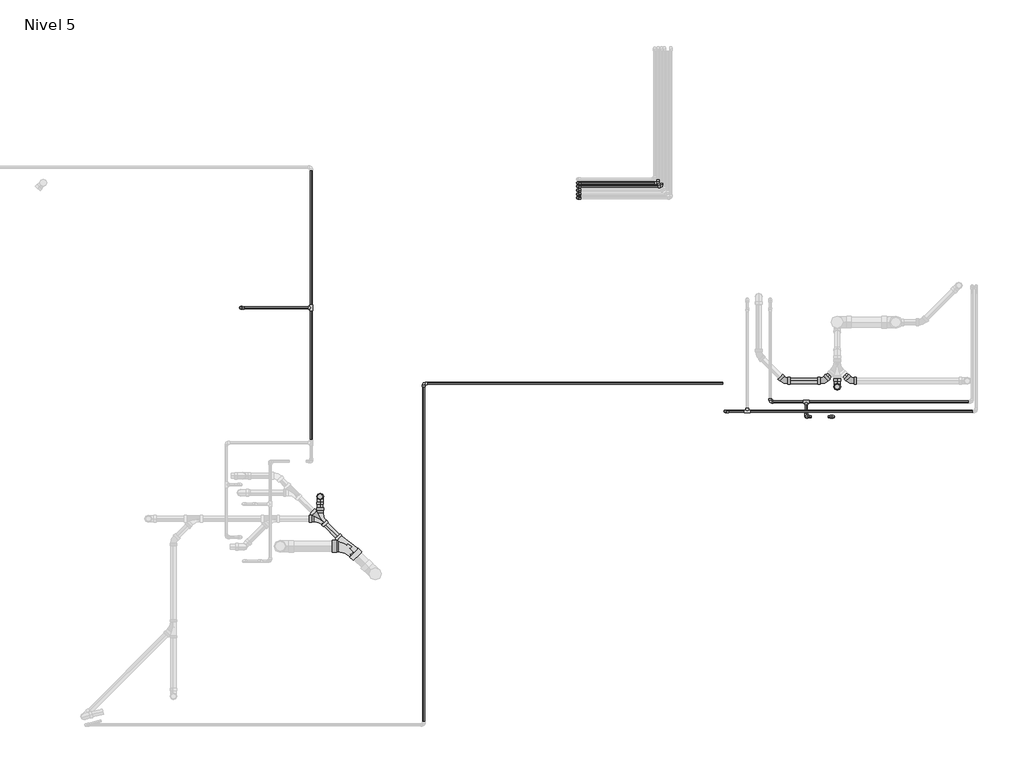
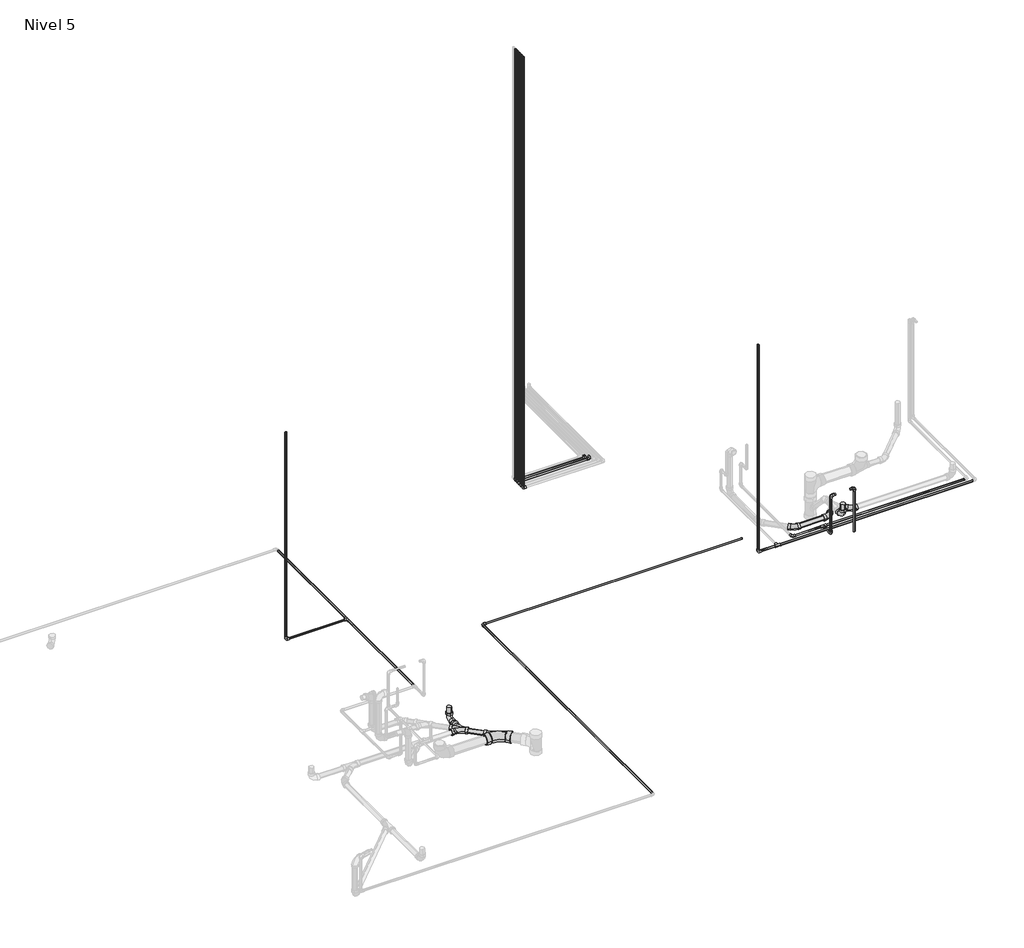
# One storey, part 3 of 6: 31 pipe segments, 24 pipe fittings.
"""IFC4 building model written with IfcOpenShell, lengths in millimetres."""

from ifc_helpers import new_model, si_unit, point, frame, frame_2d, origin, place, context, project, spatial, circle_curve, trimmed, segment, composite_curve, outline, extrude, transform, mapped, element, save
from components import pipe_fitting_ab418b84, pipe_fitting_e120c99a, pipe_fitting_a666eca6, m_codo_pvc_serie_40_9ad74631, m_codo_pvc_serie_40_dwv1_5c0ec739, m_codo_pvc_serie_40_dwv1_6f1a2495

model = new_model("IFC4")

# Units and contexts
model_context = context("Model", 3, world=origin())
ifc_project = project(units=[si_unit("LENGTHUNIT", "METRE", prefix="MILLI")], contexts=[model_context])

# Site, building, storey
site = spatial("IfcSite", under=ifc_project)
building = spatial("IfcBuilding", under=site)
storey = spatial("IfcBuildingStorey", under=building, Name="Nivel 5", Elevation=10750.0)

# Pipe fittings
placement = place(None, origin())
pipe_fitting_shape = pipe_fitting_ab418b84(model_context)
element("IfcPipeFitting", 1, ObjectType="M_Te - PVC - Serie 40 : Estándar", at=placement, inside=storey, context=model_context, shape_type="MappedRepresentation", body=[
    mapped(pipe_fitting_shape, transform((1981.5388199, 6705.6716188, 10700.0), x_axis=(0.0, 1.0, 0.0), y_axis=(1.0, 0.0, 0.0), z_axis=(0.0, 0.0, -1.0))),
])
element("IfcPipeFitting", 2, ObjectType="M_Te - PVC - Serie 40 : Estándar", at=placement, inside=storey, context=model_context, shape_type="MappedRepresentation", body=[
    mapped(pipe_fitting_shape, transform((6501.6215833, 5631.6711332, 10700.0), x_axis=(-1.0, 0.0, 0.0), y_axis=(0.0, -1.0, 0.0), z_axis=(0.0, 0.0, 1.0))),
])
element("IfcPipeFitting", 3, ObjectType="M_Te - PVC - Serie 40 : Estándar", at=placement, inside=storey, context=model_context, shape_type="MappedRepresentation", body=[
    mapped(pipe_fitting_shape, transform((7112.1407847, 5731.9268515, 10670.0), x_axis=(1.0, 0.0, 0.0), y_axis=(0.0, 1.0, 0.0), z_axis=(0.0, 0.0, 1.0))),
])
pipe_fitting_2_shape = pipe_fitting_e120c99a(model_context)
element("IfcPipeFitting", 4, ObjectType="M_Sanitario con te de reducción - PVC - Serie 40 - DWV : Estándar", at=placement, inside=storey, context=model_context, shape_type="MappedRepresentation", body=[
    mapped(pipe_fitting_2_shape, transform((2359.2960274, 4233.3960274, 10600.0), x_axis=(-0.7071067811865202, 0.7071067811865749, 0.0), y_axis=(0.7071067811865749, 0.7071067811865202, 0.0), z_axis=(0.0, 0.0, -1.0))),
])
pipe_fitting_3_shape = pipe_fitting_a666eca6(model_context)
element("IfcPipeFitting", 5, ObjectType="M_Sanitario con te doble con reducción - PVC - Serie 40 - DWV : Estándar", at=placement, inside=storey, context=model_context, shape_type="MappedRepresentation", body=[
    mapped(pipe_fitting_3_shape, transform((2073.112922, 4519.5791327, 10600.0), x_axis=(-0.7071067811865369, 0.7071067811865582, 0.0), y_axis=(-0.7071067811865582, -0.7071067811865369, 0.0), z_axis=(0.0, 0.0, 1.0))),
])
m_codo_pvc_serie_40_shape = m_codo_pvc_serie_40_9ad74631(model_context)
element("IfcPipeFitting", 6, ObjectType="M_Codo - PVC - Serie 40 : Estándar", at=placement, inside=storey, context=model_context, shape_type="MappedRepresentation", body=[
    mapped(m_codo_pvc_serie_40_shape, transform((3147.8789247, 5921.9268515, 10700.0), x_axis=(-1.0, 0.0, 0.0), y_axis=(0.0, -1.0, 0.0), z_axis=(0.0, 0.0, 1.0))),
])
element("IfcPipeFitting", 7, ObjectType="M_Codo - PVC - Serie 40 : Estándar", at=placement, inside=storey, context=model_context, shape_type="MappedRepresentation", body=[
    mapped(m_codo_pvc_serie_40_shape, transform((6738.3784167, 5731.9268515, 10670.0), x_axis=(0.0, -1.0, 0.0), y_axis=(1.0, 0.0, 0.0), z_axis=(0.0, 0.0, 1.0))),
])
element("IfcPipeFitting", 8, ObjectType="M_Codo - PVC - Serie 40 : Estándar", at=placement, inside=storey, context=model_context, shape_type="MappedRepresentation", body=[
    mapped(m_codo_pvc_serie_40_shape, transform((7112.1407847, 5576.9268515, 10670.0), x_axis=(0.0, -1.0, 0.0), y_axis=(0.0, 0.0, 1.0), z_axis=(-1.0, 0.0, 0.0))),
])
element("IfcPipeFitting", 9, ObjectType="M_Codo - PVC - Serie 40 : Estándar", at=placement, inside=storey, context=model_context, shape_type="MappedRepresentation", body=[
    mapped(m_codo_pvc_serie_40_shape, transform((7112.1407847, 5576.9268515, 11150.0), x_axis=(0.0, 0.0, 1.0), y_axis=(1.0, 0.0, 0.0), z_axis=(0.0, 1.0, 0.0))),
])
element("IfcPipeFitting", 10, ObjectType="M_Codo - PVC - Serie 40 : Estándar", at=placement, inside=storey, context=model_context, shape_type="MappedRepresentation", body=[
    mapped(m_codo_pvc_serie_40_shape, transform((7392.1407847, 5576.9268515, 11150.0), x_axis=(1.0, 0.0, 0.0), y_axis=(0.0, 0.0, -1.0), z_axis=(0.0, 1.0, 0.0))),
])
element("IfcPipeFitting", 11, ObjectType="M_Codo - PVC - Serie 40 : Estándar", at=placement, inside=storey, context=model_context, shape_type="MappedRepresentation", body=[
    mapped(m_codo_pvc_serie_40_shape, transform((5577.0674476, 7999.5181394, 10700.0), x_axis=(1.0, 0.0, 0.0), y_axis=(0.0, 1.0, 0.0), z_axis=(0.0, 0.0, 1.0))),
])
element("IfcPipeFitting", 12, ObjectType="M_Codo - PVC - Serie 40 : Estándar", at=placement, inside=storey, context=model_context, shape_type="MappedRepresentation", body=[
    mapped(m_codo_pvc_serie_40_shape, transform((5611.6630441, 7964.5181394, 10700.0), x_axis=(1.0, 0.0, 0.0), y_axis=(0.0, 1.0, 0.0), z_axis=(0.0, 0.0, 1.0))),
])
element("IfcPipeFitting", 13, ObjectType="M_Codo - PVC - Serie 40 : Estándar", at=placement, inside=storey, context=model_context, shape_type="MappedRepresentation", body=[
    mapped(m_codo_pvc_serie_40_shape, transform((4741.6630441, 7884.5181394, 10700.0), x_axis=(-1.0, 0.0, 0.0), y_axis=(0.0, 0.0, 1.0), z_axis=(0.0, 1.0, 0.0))),
])
element("IfcPipeFitting", 14, ObjectType="M_Codo - PVC - Serie 40 : Estándar", at=placement, inside=storey, context=model_context, shape_type="MappedRepresentation", body=[
    mapped(m_codo_pvc_serie_40_shape, transform((4741.6630441, 7844.5181394, 10700.0), x_axis=(-1.0, 0.0, 0.0), y_axis=(0.0, 0.0, 1.0), z_axis=(0.0, 1.0, 0.0))),
])
element("IfcPipeFitting", 15, ObjectType="M_Codo - PVC - Serie 40 : Estándar", at=placement, inside=storey, context=model_context, shape_type="MappedRepresentation", body=[
    mapped(m_codo_pvc_serie_40_shape, transform((4741.6630441, 7999.5181394, 10700.0), x_axis=(-1.0, 0.0, 0.0), y_axis=(0.0, 0.0, 1.0), z_axis=(0.0, 1.0, 0.0))),
])
element("IfcPipeFitting", 16, ObjectType="M_Codo - PVC - Serie 40 : Estándar", at=placement, inside=storey, context=model_context, shape_type="MappedRepresentation", body=[
    mapped(m_codo_pvc_serie_40_shape, transform((4741.6630441, 7964.5181394, 10700.0), x_axis=(-1.0, 0.0, 0.0), y_axis=(0.0, 0.0, 1.0), z_axis=(0.0, 1.0, 0.0))),
])
element("IfcPipeFitting", 17, ObjectType="M_Codo - PVC - Serie 40 : Estándar", at=placement, inside=storey, context=model_context, shape_type="MappedRepresentation", body=[
    mapped(m_codo_pvc_serie_40_shape, transform((4741.6630441, 7924.5181394, 10700.0), x_axis=(-1.0, 0.0, 0.0), y_axis=(0.0, 0.0, 1.0), z_axis=(0.0, 1.0, 0.0))),
])
element("IfcPipeFitting", 18, ObjectType="M_Codo - PVC - Serie 40 : Estándar", at=placement, inside=storey, context=model_context, shape_type="MappedRepresentation", body=[
    mapped(m_codo_pvc_serie_40_shape, transform((1251.5388199, 6705.6716188, 10700.0), x_axis=(-1.0, 0.0, 0.0), y_axis=(0.0, 1.577925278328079e-05, 0.9999999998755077), z_axis=(0.0, 0.9999999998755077, -1.577925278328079e-05))),
])
element("IfcPipeFitting", 19, ObjectType="M_Codo - PVC - Serie 40 : Estándar", at=placement, inside=storey, context=model_context, shape_type="MappedRepresentation", body=[
    mapped(m_codo_pvc_serie_40_shape, transform((6273.0126322, 5631.6711332, 10700.0), x_axis=(-1.0, 0.0, 0.0), y_axis=(0.0, -0.0002933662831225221, 0.9999999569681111), z_axis=(0.0, 0.9999999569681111, 0.0002933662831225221))),
])
m_codo_pvc_serie_40_dwv1_shape = m_codo_pvc_serie_40_dwv1_5c0ec739(model_context)
element("IfcPipeFitting", 20, ObjectType="M_Codo - PVC - Serie 40 - DWV1 : Estándar 2", at=placement, inside=storey, context=model_context, shape_type="MappedRepresentation", body=[
    mapped(m_codo_pvc_serie_40_dwv1_shape, transform((2073.112922, 4749.5791327, 10600.0), x_axis=(0.0, 1.0, 0.0), y_axis=(0.0, 0.0, 1.0), z_axis=(1.0, 0.0, 0.0))),
])
element("IfcPipeFitting", 21, ObjectType="M_Codo - PVC - Serie 40 - DWV1 : Estándar 2", at=placement, inside=storey, context=model_context, shape_type="MappedRepresentation", body=[
    mapped(m_codo_pvc_serie_40_dwv1_shape, transform((7432.6816991, 5886.7854242, 10599.9998671), x_axis=(0.0, -1.0, 0.0), y_axis=(0.0, 0.0, 1.0), z_axis=(-1.0, 0.0, 0.0))),
])
m_codo_pvc_serie_40_dwv1_2_shape = m_codo_pvc_serie_40_dwv1_6f1a2495(model_context)
element("IfcPipeFitting", 22, ObjectType="M_Codo - PVC - Serie 40 - DWV1 : Estándar 2", at=placement, inside=storey, context=model_context, shape_type="MappedRepresentation", body=[
    mapped(m_codo_pvc_serie_40_dwv1_2_shape, transform((7292.6689252, 5947.7956387, 10600.0), x_axis=(1.0, 0.0, 0.0), y_axis=(0.0, 1.0, 0.0), z_axis=(0.0, 0.0, 1.0))),
])
element("IfcPipeFitting", 23, ObjectType="M_Codo - PVC - Serie 40 - DWV1 : Estándar 2", at=placement, inside=storey, context=model_context, shape_type="MappedRepresentation", body=[
    mapped(m_codo_pvc_serie_40_dwv1_2_shape, transform((6887.2043613, 5947.7956387, 10600.0), x_axis=(0.7071067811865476, -0.7071067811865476, 0.0), y_axis=(0.7071067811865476, 0.7071067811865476, 0.0), z_axis=(0.0, 0.0, 1.0))),
])
element("IfcPipeFitting", 24, ObjectType="M_Codo - PVC - Serie 40 - DWV1 : Estándar 2", at=placement, inside=storey, context=model_context, shape_type="MappedRepresentation", body=[
    mapped(m_codo_pvc_serie_40_dwv1_2_shape, transform((7572.4670846, 5947.7956387, 10600.0), x_axis=(0.7071067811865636, -0.7071067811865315, 0.0), y_axis=(0.7071067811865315, 0.7071067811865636, 0.0), z_axis=(0.0, 0.0, 1.0))),
])

# Pipe segments
element("IfcPipeSegment", 25, ObjectType="Tuberia PVC Agua Fria", at=placement, inside=storey, context=model_context, shape_type="SweptSolid", body=[
    extrude(outline(composite_curve([segment(trimmed(circle_curve(frame_2d((6705.6716188, 10700.0)), 10.31875), [point((6715.9903688, 10700.0))], [point((6705.6716188, 10689.68125))], False, "CARTESIAN"), True, "CONTINUOUS"), segment(trimmed(circle_curve(frame_2d((6705.6716188, 10700.0)), 10.31875), [point((6705.6716188, 10689.68125))], [point((6695.3528688, 10700.0))], False, "CARTESIAN"), True, "CONTINUOUS"), segment(trimmed(circle_curve(frame_2d((6705.6716188, 10700.0)), 10.31875), [point((6695.3528688, 10700.0))], [point((6705.6716188, 10710.31875))], False, "CARTESIAN"), True, "CONTINUOUS"), segment(trimmed(circle_curve(frame_2d((6705.6716188, 10700.0)), 10.31875), [point((6705.6716188, 10710.31875))], [point((6715.9903688, 10700.0))], False, "CARTESIAN"), True, "CONTINUOUS")], self_intersect=False)), frame((1284.9398199, 0.0, 0.0), z_axis=(1.0, 0.0, 0.0), x_axis=(0.0, 1.0, 0.0)), (0.0, 0.0, 1.0), 666.1388438),
])
element("IfcPipeSegment", 26, ObjectType="Tuberia PVC Agua Fria", at=placement, inside=storey, context=model_context, shape_type="SweptSolid", body=[
    extrude(outline(composite_curve([segment(trimmed(circle_curve(frame_2d((10700.0, 1981.5388199)), 10.31875), [point((10700.0, 1971.2200699))], [point((10689.68125, 1981.5388199))], False, "CARTESIAN"), True, "CONTINUOUS"), segment(trimmed(circle_curve(frame_2d((10700.0, 1981.5388199)), 10.31875), [point((10689.68125, 1981.5388199))], [point((10700.0, 1991.8575699))], False, "CARTESIAN"), True, "CONTINUOUS"), segment(trimmed(circle_curve(frame_2d((10700.0, 1981.5388199)), 10.31875), [point((10700.0, 1991.8575699))], [point((10710.31875, 1981.5388199))], False, "CARTESIAN"), True, "CONTINUOUS"), segment(trimmed(circle_curve(frame_2d((10700.0, 1981.5388199)), 10.31875), [point((10710.31875, 1981.5388199))], [point((10700.0, 1971.2200699))], False, "CARTESIAN"), True, "CONTINUOUS")], self_intersect=False)), frame((0.0, 6736.1317751, 0.0), z_axis=(0.0, 1.0, 0.0), x_axis=(0.0, 0.0, 1.0)), (0.0, 0.0, 1.0), 1393.6388437),
])
element("IfcPipeSegment", 27, ObjectType="Tuberia PVC Agua Fria", at=placement, inside=storey, context=model_context, shape_type="SweptSolid", body=[
    extrude(outline(composite_curve([segment(trimmed(circle_curve(frame_2d((10700.0, 1981.5388199)), 10.31875), [point((10700.0, 1971.2200699))], [point((10689.68125, 1981.5388199))], False, "CARTESIAN"), True, "CONTINUOUS"), segment(trimmed(circle_curve(frame_2d((10700.0, 1981.5388199)), 10.31875), [point((10689.68125, 1981.5388199))], [point((10700.0, 1991.8575699))], False, "CARTESIAN"), True, "CONTINUOUS"), segment(trimmed(circle_curve(frame_2d((10700.0, 1981.5388199)), 10.31875), [point((10700.0, 1991.8575699))], [point((10710.31875, 1981.5388199))], False, "CARTESIAN"), True, "CONTINUOUS"), segment(trimmed(circle_curve(frame_2d((10700.0, 1981.5388199)), 10.31875), [point((10710.31875, 1981.5388199))], [point((10700.0, 1971.2200699))], False, "CARTESIAN"), True, "CONTINUOUS")], self_intersect=False)), frame((0.0, 5337.8769601, 0.0), z_axis=(0.0, 1.0, 0.0), x_axis=(0.0, 0.0, 1.0)), (0.0, 0.0, 1.0), 1337.3345024),
])
element("IfcPipeSegment", 28, ObjectType="Tuberia PVC Agua Fria", at=placement, inside=storey, context=model_context, shape_type="SweptSolid", body=[
    extrude(outline(composite_curve([segment(trimmed(circle_curve(frame_2d((10700.0, 3147.8789247)), 10.31875), [point((10700.0, 3158.1976747))], [point((10710.31875, 3147.8789247))], False, "CARTESIAN"), True, "CONTINUOUS"), segment(trimmed(circle_curve(frame_2d((10700.0, 3147.8789247)), 10.31875), [point((10710.31875, 3147.8789247))], [point((10700.0, 3137.5601747))], False, "CARTESIAN"), True, "CONTINUOUS"), segment(trimmed(circle_curve(frame_2d((10700.0, 3147.8789247)), 10.31875), [point((10700.0, 3137.5601747))], [point((10689.68125, 3147.8789247))], False, "CARTESIAN"), True, "CONTINUOUS"), segment(trimmed(circle_curve(frame_2d((10700.0, 3147.8789247)), 10.31875), [point((10689.68125, 3147.8789247))], [point((10700.0, 3158.1976747))], False, "CARTESIAN"), True, "CONTINUOUS")], self_intersect=False)), frame((0.0, 2415.3278515, 0.0), z_axis=(0.0, 1.0, 0.0), x_axis=(0.0, 0.0, 1.0)), (0.0, 0.0, 1.0), 3473.198),
])
element("IfcPipeSegment", 29, ObjectType="Tuberia PVC Agua Fria", at=placement, inside=storey, context=model_context, shape_type="SweptSolid", body=[
    extrude(outline(composite_curve([segment(trimmed(circle_curve(frame_2d((5921.9268515, 10700.0)), 10.31875), [point((5911.6081015, 10700.0))], [point((5921.9268515, 10710.31875))], False, "CARTESIAN"), True, "CONTINUOUS"), segment(trimmed(circle_curve(frame_2d((5921.9268515, 10700.0)), 10.31875), [point((5921.9268515, 10710.31875))], [point((5932.2456015, 10700.0))], False, "CARTESIAN"), True, "CONTINUOUS"), segment(trimmed(circle_curve(frame_2d((5921.9268515, 10700.0)), 10.31875), [point((5932.2456015, 10700.0))], [point((5921.9268515, 10689.68125))], False, "CARTESIAN"), True, "CONTINUOUS"), segment(trimmed(circle_curve(frame_2d((5921.9268515, 10700.0)), 10.31875), [point((5921.9268515, 10689.68125))], [point((5911.6081015, 10700.0))], False, "CARTESIAN"), True, "CONTINUOUS")], self_intersect=False)), frame((3181.2799247, 0.0, 0.0), z_axis=(1.0, 0.0, 0.0), x_axis=(0.0, 1.0, 0.0)), (0.0, 0.0, 1.0), 3066.599),
])
element("IfcPipeSegment", 30, ObjectType="Tuberia PVC Agua Fria", at=placement, inside=storey, context=model_context, shape_type="SweptSolid", body=[
    extrude(outline(composite_curve([segment(trimmed(circle_curve(frame_2d((5631.6711332, 10700.0)), 10.31875), [point((5621.3523832, 10700.0))], [point((5631.6711332, 10710.31875))], False, "CARTESIAN"), True, "CONTINUOUS"), segment(trimmed(circle_curve(frame_2d((5631.6711332, 10700.0)), 10.31875), [point((5631.6711332, 10710.31875))], [point((5641.9898832, 10700.0))], False, "CARTESIAN"), True, "CONTINUOUS"), segment(trimmed(circle_curve(frame_2d((5631.6711332, 10700.0)), 10.31875), [point((5641.9898832, 10700.0))], [point((5631.6711332, 10689.68125))], False, "CARTESIAN"), True, "CONTINUOUS"), segment(trimmed(circle_curve(frame_2d((5631.6711332, 10700.0)), 10.31875), [point((5631.6711332, 10689.68125))], [point((5621.3523832, 10700.0))], False, "CARTESIAN"), True, "CONTINUOUS")], self_intersect=False)), frame((6532.0817396, 0.0, 0.0), z_axis=(1.0, 0.0, 0.0), x_axis=(0.0, 1.0, 0.0)), (0.0, 0.0, 1.0), 2307.5298926),
])
element("IfcPipeSegment", 31, ObjectType="Tuberia PVC Agua Fria", at=placement, inside=storey, context=model_context, shape_type="SweptSolid", body=[
    extrude(outline(composite_curve([segment(trimmed(circle_curve(frame_2d((5631.6711332, 10700.0)), 10.31875), [point((5621.3523832, 10700.0))], [point((5631.6711332, 10710.31875))], False, "CARTESIAN"), True, "CONTINUOUS"), segment(trimmed(circle_curve(frame_2d((5631.6711332, 10700.0)), 10.31875), [point((5631.6711332, 10710.31875))], [point((5641.9898832, 10700.0))], False, "CARTESIAN"), True, "CONTINUOUS"), segment(trimmed(circle_curve(frame_2d((5631.6711332, 10700.0)), 10.31875), [point((5641.9898832, 10700.0))], [point((5631.6711332, 10689.68125))], False, "CARTESIAN"), True, "CONTINUOUS"), segment(trimmed(circle_curve(frame_2d((5631.6711332, 10700.0)), 10.31875), [point((5631.6711332, 10689.68125))], [point((5621.3523832, 10700.0))], False, "CARTESIAN"), True, "CONTINUOUS")], self_intersect=False)), frame((6306.4136322, 0.0, 0.0), z_axis=(1.0, 0.0, 0.0), x_axis=(0.0, 1.0, 0.0)), (0.0, 0.0, 1.0), 164.7477949),
])
element("IfcPipeSegment", 32, ObjectType="Tuberia PVC Agua Fria", at=placement, inside=storey, context=model_context, shape_type="SweptSolid", body=[
    extrude(outline(composite_curve([segment(trimmed(circle_curve(frame_2d((7999.5181394, 10700.0)), 10.31875), [point((8009.8368894, 10700.0))], [point((7999.5181394, 10689.68125))], False, "CARTESIAN"), True, "CONTINUOUS"), segment(trimmed(circle_curve(frame_2d((7999.5181394, 10700.0)), 10.31875), [point((7999.5181394, 10689.68125))], [point((7989.1993894, 10700.0))], False, "CARTESIAN"), True, "CONTINUOUS"), segment(trimmed(circle_curve(frame_2d((7999.5181394, 10700.0)), 10.31875), [point((7989.1993894, 10700.0))], [point((7999.5181394, 10710.31875))], False, "CARTESIAN"), True, "CONTINUOUS"), segment(trimmed(circle_curve(frame_2d((7999.5181394, 10700.0)), 10.31875), [point((7999.5181394, 10710.31875))], [point((8009.8368894, 10700.0))], False, "CARTESIAN"), True, "CONTINUOUS")], self_intersect=False)), frame((4775.0640441, 0.0, 0.0), z_axis=(1.0, 0.0, 0.0), x_axis=(0.0, 1.0, 0.0)), (0.0, 0.0, 1.0), 768.6024036),
])
element("IfcPipeSegment", 33, ObjectType="Tuberia PVC Agua Fria", at=placement, inside=storey, context=model_context, shape_type="SweptSolid", body=[
    extrude(outline(composite_curve([segment(trimmed(circle_curve(frame_2d((4741.6630441, 7999.5181394)), 10.31875), [point((4731.3442941, 7999.5181394))], [point((4741.6630441, 8009.8368894))], False, "CARTESIAN"), True, "CONTINUOUS"), segment(trimmed(circle_curve(frame_2d((4741.6630441, 7999.5181394)), 10.31875), [point((4741.6630441, 8009.8368894))], [point((4751.9817941, 7999.5181394))], False, "CARTESIAN"), True, "CONTINUOUS"), segment(trimmed(circle_curve(frame_2d((4741.6630441, 7999.5181394)), 10.31875), [point((4751.9817941, 7999.5181394))], [point((4741.6630441, 7989.1993894))], False, "CARTESIAN"), True, "CONTINUOUS"), segment(trimmed(circle_curve(frame_2d((4741.6630441, 7999.5181394)), 10.31875), [point((4741.6630441, 7989.1993894))], [point((4731.3442941, 7999.5181394))], False, "CARTESIAN"), True, "CONTINUOUS")], self_intersect=False)), frame((0.0, 0.0, 10733.401), z_axis=(0.0, 0.0, 1.0), x_axis=(1.0, 0.0, 0.0)), (0.0, 0.0, 1.0), 5416.599),
])
element("IfcPipeSegment", 34, ObjectType="Tuberia PVC Agua Fria", at=placement, inside=storey, context=model_context, shape_type="SweptSolid", body=[
    extrude(outline(composite_curve([segment(trimmed(circle_curve(frame_2d((7964.5181394, 10700.0)), 10.31875), [point((7974.8368894, 10700.0))], [point((7964.5181394, 10689.68125))], False, "CARTESIAN"), True, "CONTINUOUS"), segment(trimmed(circle_curve(frame_2d((7964.5181394, 10700.0)), 10.31875), [point((7964.5181394, 10689.68125))], [point((7954.1993894, 10700.0))], False, "CARTESIAN"), True, "CONTINUOUS"), segment(trimmed(circle_curve(frame_2d((7964.5181394, 10700.0)), 10.31875), [point((7954.1993894, 10700.0))], [point((7964.5181394, 10710.31875))], False, "CARTESIAN"), True, "CONTINUOUS"), segment(trimmed(circle_curve(frame_2d((7964.5181394, 10700.0)), 10.31875), [point((7964.5181394, 10710.31875))], [point((7974.8368894, 10700.0))], False, "CARTESIAN"), True, "CONTINUOUS")], self_intersect=False)), frame((4775.0640441, 0.0, 0.0), z_axis=(1.0, 0.0, 0.0), x_axis=(0.0, 1.0, 0.0)), (0.0, 0.0, 1.0), 803.198),
])
element("IfcPipeSegment", 35, ObjectType="Tuberia PVC Agua Fria", at=placement, inside=storey, context=model_context, shape_type="SweptSolid", body=[
    extrude(outline(composite_curve([segment(trimmed(circle_curve(frame_2d((4741.6630441, 7964.5181394)), 10.31875), [point((4731.3442941, 7964.5181394))], [point((4741.6630441, 7974.8368894))], False, "CARTESIAN"), True, "CONTINUOUS"), segment(trimmed(circle_curve(frame_2d((4741.6630441, 7964.5181394)), 10.31875), [point((4741.6630441, 7974.8368894))], [point((4751.9817941, 7964.5181394))], False, "CARTESIAN"), True, "CONTINUOUS"), segment(trimmed(circle_curve(frame_2d((4741.6630441, 7964.5181394)), 10.31875), [point((4751.9817941, 7964.5181394))], [point((4741.6630441, 7954.1993894))], False, "CARTESIAN"), True, "CONTINUOUS"), segment(trimmed(circle_curve(frame_2d((4741.6630441, 7964.5181394)), 10.31875), [point((4741.6630441, 7954.1993894))], [point((4731.3442941, 7964.5181394))], False, "CARTESIAN"), True, "CONTINUOUS")], self_intersect=False)), frame((0.0, 0.0, 10733.401), z_axis=(0.0, 0.0, 1.0), x_axis=(1.0, 0.0, 0.0)), (0.0, 0.0, 1.0), 5416.599),
])
element("IfcPipeSegment", 36, ObjectType="Tuberia PVC Agua Fria", at=placement, inside=storey, context=model_context, shape_type="SweptSolid", body=[
    extrude(outline(composite_curve([segment(trimmed(circle_curve(frame_2d((4741.6630441, 7924.5181394)), 10.31875), [point((4731.3442941, 7924.5181394))], [point((4741.6630441, 7934.8368894))], False, "CARTESIAN"), True, "CONTINUOUS"), segment(trimmed(circle_curve(frame_2d((4741.6630441, 7924.5181394)), 10.31875), [point((4741.6630441, 7934.8368894))], [point((4751.9817941, 7924.5181394))], False, "CARTESIAN"), True, "CONTINUOUS"), segment(trimmed(circle_curve(frame_2d((4741.6630441, 7924.5181394)), 10.31875), [point((4751.9817941, 7924.5181394))], [point((4741.6630441, 7914.1993894))], False, "CARTESIAN"), True, "CONTINUOUS"), segment(trimmed(circle_curve(frame_2d((4741.6630441, 7924.5181394)), 10.31875), [point((4741.6630441, 7914.1993894))], [point((4731.3442941, 7924.5181394))], False, "CARTESIAN"), True, "CONTINUOUS")], self_intersect=False)), frame((0.0, 0.0, 10733.401), z_axis=(0.0, 0.0, 1.0), x_axis=(1.0, 0.0, 0.0)), (0.0, 0.0, 1.0), 5416.599),
])
element("IfcPipeSegment", 37, ObjectType="Tuberia PVC Agua Fria", at=placement, inside=storey, context=model_context, shape_type="SweptSolid", body=[
    extrude(outline(composite_curve([segment(trimmed(circle_curve(frame_2d((4741.6630441, 7884.5181394)), 10.31875), [point((4731.3442941, 7884.5181394))], [point((4741.6630441, 7894.8368894))], False, "CARTESIAN"), True, "CONTINUOUS"), segment(trimmed(circle_curve(frame_2d((4741.6630441, 7884.5181394)), 10.31875), [point((4741.6630441, 7894.8368894))], [point((4751.9817941, 7884.5181394))], False, "CARTESIAN"), True, "CONTINUOUS"), segment(trimmed(circle_curve(frame_2d((4741.6630441, 7884.5181394)), 10.31875), [point((4751.9817941, 7884.5181394))], [point((4741.6630441, 7874.1993894))], False, "CARTESIAN"), True, "CONTINUOUS"), segment(trimmed(circle_curve(frame_2d((4741.6630441, 7884.5181394)), 10.31875), [point((4741.6630441, 7874.1993894))], [point((4731.3442941, 7884.5181394))], False, "CARTESIAN"), True, "CONTINUOUS")], self_intersect=False)), frame((0.0, 0.0, 10733.401), z_axis=(0.0, 0.0, 1.0), x_axis=(1.0, 0.0, 0.0)), (0.0, 0.0, 1.0), 5416.599),
])
element("IfcPipeSegment", 38, ObjectType="Tuberia PVC Agua Fria", at=placement, inside=storey, context=model_context, shape_type="SweptSolid", body=[
    extrude(outline(composite_curve([segment(trimmed(circle_curve(frame_2d((4741.6630441, 7844.5181394)), 10.31875), [point((4731.3442941, 7844.5181394))], [point((4741.6630441, 7854.8368894))], False, "CARTESIAN"), True, "CONTINUOUS"), segment(trimmed(circle_curve(frame_2d((4741.6630441, 7844.5181394)), 10.31875), [point((4741.6630441, 7854.8368894))], [point((4751.9817941, 7844.5181394))], False, "CARTESIAN"), True, "CONTINUOUS"), segment(trimmed(circle_curve(frame_2d((4741.6630441, 7844.5181394)), 10.31875), [point((4751.9817941, 7844.5181394))], [point((4741.6630441, 7834.1993894))], False, "CARTESIAN"), True, "CONTINUOUS"), segment(trimmed(circle_curve(frame_2d((4741.6630441, 7844.5181394)), 10.31875), [point((4741.6630441, 7834.1993894))], [point((4731.3442941, 7844.5181394))], False, "CARTESIAN"), True, "CONTINUOUS")], self_intersect=False)), frame((0.0, 0.0, 10733.401), z_axis=(0.0, 0.0, 1.0), x_axis=(1.0, 0.0, 0.0)), (0.0, 0.0, 1.0), 5416.599),
])
element("IfcPipeSegment", 39, ObjectType="Tuberia PVC Agua Fria", at=placement, inside=storey, context=model_context, shape_type="SweptSolid", body=[
    extrude(outline(composite_curve([segment(trimmed(circle_curve(frame_2d((0.0, -10.31875)), 10.31875), [point((-10.31875, -10.31875))], [point((0.0, 0.0))], False, "CARTESIAN"), True, "CONTINUOUS"), segment(trimmed(circle_curve(frame_2d((0.0, -10.31875)), 10.31875), [point((0.0, 0.0))], [point((10.31875, -10.31875))], False, "CARTESIAN"), True, "CONTINUOUS"), segment(trimmed(circle_curve(frame_2d((0.0, -10.31875)), 10.31875), [point((10.31875, -10.31875))], [point((0.0, -20.6375))], False, "CARTESIAN"), True, "CONTINUOUS"), segment(trimmed(circle_curve(frame_2d((0.0, -10.31875)), 10.31875), [point((0.0, -20.6375))], [point((-10.31875, -10.31875))], False, "CARTESIAN"), True, "CONTINUOUS")], self_intersect=False)), frame((1251.5388199, 6695.3533959, 10733.4018275), z_axis=(0.0, 8.019647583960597e-05, 0.9999999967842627), x_axis=(-1.0, 0.0, 0.0)), (0.0, 0.0, 1.0), 2583.1980083),
])
element("IfcPipeSegment", 40, ObjectType="Tuberia PVC Agua Fria", at=placement, inside=storey, context=model_context, shape_type="SweptSolid", body=[
    extrude(outline(composite_curve([segment(trimmed(circle_curve(frame_2d((0.0, 10.31875)), 10.31875), [point((-10.31875, 10.31875))], [point((0.0, 20.6375001))], False, "CARTESIAN"), True, "CONTINUOUS"), segment(trimmed(circle_curve(frame_2d((0.0, 10.31875)), 10.31875), [point((0.0, 20.6375001))], [point((10.31875, 10.31875))], False, "CARTESIAN"), True, "CONTINUOUS"), segment(trimmed(circle_curve(frame_2d((0.0, 10.31875)), 10.31875), [point((10.31875, 10.31875))], [point((0.0, 0.0))], False, "CARTESIAN"), True, "CONTINUOUS"), segment(trimmed(circle_curve(frame_2d((0.0, 10.31875)), 10.31875), [point((0.0, 0.0))], [point((-10.31875, 10.31875))], False, "CARTESIAN"), True, "CONTINUOUS")], self_intersect=False)), frame((6273.0126322, 5621.3425849, 10733.3980105), z_axis=(0.0, -0.0002895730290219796, 0.9999999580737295), x_axis=(1.0, 0.0, 0.0)), (0.0, 0.0, 1.0), 2583.1981112),
])
element("IfcPipeSegment", 41, ObjectType="Tuberia PVC Agua Caliente", at=placement, inside=storey, context=model_context, shape_type="SweptSolid", body=[
    extrude(outline(composite_curve([segment(trimmed(circle_curve(frame_2d((5731.9268515, 10670.0)), 10.31875), [point((5742.2456015, 10670.0))], [point((5731.9268515, 10659.68125))], False, "CARTESIAN"), True, "CONTINUOUS"), segment(trimmed(circle_curve(frame_2d((5731.9268515, 10670.0)), 10.31875), [point((5731.9268515, 10659.68125))], [point((5721.6081015, 10670.0))], False, "CARTESIAN"), True, "CONTINUOUS"), segment(trimmed(circle_curve(frame_2d((5731.9268515, 10670.0)), 10.31875), [point((5721.6081015, 10670.0))], [point((5731.9268515, 10680.31875))], False, "CARTESIAN"), True, "CONTINUOUS"), segment(trimmed(circle_curve(frame_2d((5731.9268515, 10670.0)), 10.31875), [point((5731.9268515, 10680.31875))], [point((5742.2456015, 10670.0))], False, "CARTESIAN"), True, "CONTINUOUS")], self_intersect=False)), frame((6771.7794167, 0.0, 0.0), z_axis=(1.0, 0.0, 0.0), x_axis=(0.0, 1.0, 0.0)), (0.0, 0.0, 1.0), 309.9012117),
])
element("IfcPipeSegment", 42, ObjectType="Tuberia PVC Agua Caliente", at=placement, inside=storey, context=model_context, shape_type="SweptSolid", body=[
    extrude(outline(composite_curve([segment(trimmed(circle_curve(frame_2d((10670.0, 7112.1407847)), 10.31875), [point((10670.0, 7101.8220347))], [point((10659.68125, 7112.1407847))], False, "CARTESIAN"), True, "CONTINUOUS"), segment(trimmed(circle_curve(frame_2d((10670.0, 7112.1407847)), 10.31875), [point((10659.68125, 7112.1407847))], [point((10670.0, 7122.4595347))], False, "CARTESIAN"), True, "CONTINUOUS"), segment(trimmed(circle_curve(frame_2d((10670.0, 7112.1407847)), 10.31875), [point((10670.0, 7122.4595347))], [point((10680.31875, 7112.1407847))], False, "CARTESIAN"), True, "CONTINUOUS"), segment(trimmed(circle_curve(frame_2d((10670.0, 7112.1407847)), 10.31875), [point((10680.31875, 7112.1407847))], [point((10670.0, 7101.8220347))], False, "CARTESIAN"), True, "CONTINUOUS")], self_intersect=False)), frame((0.0, 5610.3278515, 0.0), z_axis=(0.0, 1.0, 0.0), x_axis=(0.0, 0.0, 1.0)), (0.0, 0.0, 1.0), 91.1388438),
])
element("IfcPipeSegment", 43, ObjectType="Tuberia PVC Agua Caliente", at=placement, inside=storey, context=model_context, shape_type="SweptSolid", body=[
    extrude(outline(composite_curve([segment(trimmed(circle_curve(frame_2d((5731.9268515, 10670.0)), 10.31875), [point((5742.2456015, 10670.0))], [point((5731.9268515, 10659.68125))], False, "CARTESIAN"), True, "CONTINUOUS"), segment(trimmed(circle_curve(frame_2d((5731.9268515, 10670.0)), 10.31875), [point((5731.9268515, 10659.68125))], [point((5721.6081015, 10670.0))], False, "CARTESIAN"), True, "CONTINUOUS"), segment(trimmed(circle_curve(frame_2d((5731.9268515, 10670.0)), 10.31875), [point((5721.6081015, 10670.0))], [point((5731.9268515, 10680.31875))], False, "CARTESIAN"), True, "CONTINUOUS"), segment(trimmed(circle_curve(frame_2d((5731.9268515, 10670.0)), 10.31875), [point((5731.9268515, 10680.31875))], [point((5742.2456015, 10670.0))], False, "CARTESIAN"), True, "CONTINUOUS")], self_intersect=False)), frame((7142.6009409, 0.0, 0.0), z_axis=(1.0, 0.0, 0.0), x_axis=(0.0, 1.0, 0.0)), (0.0, 0.0, 1.0), 1655.6876642),
])
element("IfcPipeSegment", 44, ObjectType="Tuberia PVC Agua Caliente", at=placement, inside=storey, context=model_context, shape_type="SweptSolid", body=[
    extrude(outline(composite_curve([segment(trimmed(circle_curve(frame_2d((5576.9268515, 11150.0)), 10.31875), [point((5566.6081015, 11150.0))], [point((5576.9268515, 11160.31875))], False, "CARTESIAN"), True, "CONTINUOUS"), segment(trimmed(circle_curve(frame_2d((5576.9268515, 11150.0)), 10.31875), [point((5576.9268515, 11160.31875))], [point((5587.2456015, 11150.0))], False, "CARTESIAN"), True, "CONTINUOUS"), segment(trimmed(circle_curve(frame_2d((5576.9268515, 11150.0)), 10.31875), [point((5587.2456015, 11150.0))], [point((5576.9268515, 11139.68125))], False, "CARTESIAN"), True, "CONTINUOUS"), segment(trimmed(circle_curve(frame_2d((5576.9268515, 11150.0)), 10.31875), [point((5576.9268515, 11139.68125))], [point((5566.6081015, 11150.0))], False, "CARTESIAN"), True, "CONTINUOUS")], self_intersect=False)), frame((7341.1407847, 0.0, 0.0), z_axis=(1.0, 0.0, 0.0), x_axis=(0.0, 1.0, 0.0)), (0.0, 0.0, 1.0), 17.599),
])
element("IfcPipeSegment", 45, ObjectType="Tuberia PVC Agua Caliente", at=placement, inside=storey, context=model_context, shape_type="SweptSolid", body=[
    extrude(outline(composite_curve([segment(trimmed(circle_curve(frame_2d((7112.1407847, 5576.9268515)), 10.31875), [point((7101.8220347, 5576.9268515))], [point((7112.1407847, 5587.2456015))], False, "CARTESIAN"), True, "CONTINUOUS"), segment(trimmed(circle_curve(frame_2d((7112.1407847, 5576.9268515)), 10.31875), [point((7112.1407847, 5587.2456015))], [point((7122.4595347, 5576.9268515))], False, "CARTESIAN"), True, "CONTINUOUS"), segment(trimmed(circle_curve(frame_2d((7112.1407847, 5576.9268515)), 10.31875), [point((7122.4595347, 5576.9268515))], [point((7112.1407847, 5566.6081015))], False, "CARTESIAN"), True, "CONTINUOUS"), segment(trimmed(circle_curve(frame_2d((7112.1407847, 5576.9268515)), 10.31875), [point((7112.1407847, 5566.6081015))], [point((7101.8220347, 5576.9268515))], False, "CARTESIAN"), True, "CONTINUOUS")], self_intersect=False)), frame((0.0, 0.0, 10703.401), z_axis=(0.0, 0.0, 1.0), x_axis=(1.0, 0.0, 0.0)), (0.0, 0.0, 1.0), 413.198),
])
element("IfcPipeSegment", 46, ObjectType="Tuberia PVC Agua Caliente", at=placement, inside=storey, context=model_context, shape_type="SweptSolid", body=[
    extrude(outline(composite_curve([segment(trimmed(circle_curve(frame_2d((7392.1407847, 5576.9268515)), 10.31875), [point((7381.8220347, 5576.9268515))], [point((7392.1407847, 5587.2456015))], False, "CARTESIAN"), True, "CONTINUOUS"), segment(trimmed(circle_curve(frame_2d((7392.1407847, 5576.9268515)), 10.31875), [point((7392.1407847, 5587.2456015))], [point((7402.4595347, 5576.9268515))], False, "CARTESIAN"), True, "CONTINUOUS"), segment(trimmed(circle_curve(frame_2d((7392.1407847, 5576.9268515)), 10.31875), [point((7402.4595347, 5576.9268515))], [point((7392.1407847, 5566.6081015))], False, "CARTESIAN"), True, "CONTINUOUS"), segment(trimmed(circle_curve(frame_2d((7392.1407847, 5576.9268515)), 10.31875), [point((7392.1407847, 5566.6081015))], [point((7381.8220347, 5576.9268515))], False, "CARTESIAN"), True, "CONTINUOUS")], self_intersect=False)), frame((0.0, 0.0, 10600.0), z_axis=(0.0, 0.0, 1.0), x_axis=(1.0, 0.0, 0.0)), (0.0, 0.0, 1.0), 516.599),
])
element("IfcPipeSegment", 47, ObjectType="Tuberia PVC Agua Caliente", at=placement, inside=storey, context=model_context, shape_type="SweptSolid", body=[
    extrude(outline(composite_curve([segment(trimmed(circle_curve(frame_2d((5576.9268515, 11150.0)), 10.31875), [point((5566.6081015, 11150.0))], [point((5576.9268515, 11160.31875))], False, "CARTESIAN"), True, "CONTINUOUS"), segment(trimmed(circle_curve(frame_2d((5576.9268515, 11150.0)), 10.31875), [point((5576.9268515, 11160.31875))], [point((5587.2456015, 11150.0))], False, "CARTESIAN"), True, "CONTINUOUS"), segment(trimmed(circle_curve(frame_2d((5576.9268515, 11150.0)), 10.31875), [point((5587.2456015, 11150.0))], [point((5576.9268515, 11139.68125))], False, "CARTESIAN"), True, "CONTINUOUS"), segment(trimmed(circle_curve(frame_2d((5576.9268515, 11150.0)), 10.31875), [point((5576.9268515, 11139.68125))], [point((5566.6081015, 11150.0))], False, "CARTESIAN"), True, "CONTINUOUS")], self_intersect=False)), frame((7145.5417847, 0.0, 0.0), z_axis=(1.0, 0.0, 0.0), x_axis=(0.0, 1.0, 0.0)), (0.0, 0.0, 1.0), 17.599),
])
element("IfcPipeSegment", 48, ObjectType="Tuberia PVC Sanitario", at=placement, inside=storey, context=model_context, shape_type="SweptSolid", body=[
    extrude(outline(composite_curve([segment(trimmed(circle_curve(frame_2d((0.0, 26.9875)), 26.9875), [point((26.9875001, 26.9875))], [point((0.0, 0.0))], False, "CARTESIAN"), True, "CONTINUOUS"), segment(trimmed(circle_curve(frame_2d((0.0, 26.9875)), 26.9875), [point((0.0, 0.0))], [point((-26.9875, 26.9875))], False, "CARTESIAN"), True, "CONTINUOUS"), segment(trimmed(circle_curve(frame_2d((0.0, 26.9875)), 26.9875), [point((-26.9875, 26.9875))], [point((0.0, 53.975))], False, "CARTESIAN"), True, "CONTINUOUS"), segment(trimmed(circle_curve(frame_2d((0.0, 26.9875)), 26.9875), [point((0.0, 53.975))], [point((26.9875001, 26.9875))], False, "CARTESIAN"), True, "CONTINUOUS")], self_intersect=False)), frame((2254.9042176, 4337.7878371, 10626.9875), z_axis=(-0.7071067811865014, 0.7071067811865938, 0.0), x_axis=(0.7071067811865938, 0.7071067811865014, 0.0)), (0.0, 0.0, 1.0), 171.7397783),
])
element("IfcPipeSegment", 49, ObjectType="Tuberia PVC Sanitario", at=placement, inside=storey, context=model_context, shape_type="SweptSolid", body=[
    extrude(outline(composite_curve([segment(trimmed(circle_curve(frame_2d((10600.0, 2073.112922)), 26.9875), [point((10600.0, 2100.100422))], [point((10626.9875, 2073.112922))], False, "CARTESIAN"), True, "CONTINUOUS"), segment(trimmed(circle_curve(frame_2d((10600.0, 2073.112922)), 26.9875), [point((10626.9875, 2073.112922))], [point((10600.0, 2046.125422))], False, "CARTESIAN"), True, "CONTINUOUS"), segment(trimmed(circle_curve(frame_2d((10600.0, 2073.112922)), 26.9875), [point((10600.0, 2046.125422))], [point((10573.0125, 2073.112922))], False, "CARTESIAN"), True, "CONTINUOUS"), segment(trimmed(circle_curve(frame_2d((10600.0, 2073.112922)), 26.9875), [point((10573.0125, 2073.112922))], [point((10600.0, 2100.100422))], False, "CARTESIAN"), True, "CONTINUOUS")], self_intersect=False)), frame((0.0, 4630.488427, 0.0), z_axis=(0.0, 1.0, 0.0), x_axis=(0.0, 0.0, 1.0)), (0.0, 0.0, 1.0), 36.5486433),
])
element("IfcPipeSegment", 50, ObjectType="Tuberia PVC Sanitario", at=placement, inside=storey, context=model_context, shape_type="SweptSolid", body=[
    extrude(outline(composite_curve([segment(trimmed(circle_curve(frame_2d((2073.112922, 4749.5791327)), 26.9875), [point((2046.125422, 4749.5791327))], [point((2073.112922, 4776.5666327))], False, "CARTESIAN"), True, "CONTINUOUS"), segment(trimmed(circle_curve(frame_2d((2073.112922, 4749.5791327)), 26.9875), [point((2073.112922, 4776.5666327))], [point((2100.100422, 4749.5791327))], False, "CARTESIAN"), True, "CONTINUOUS"), segment(trimmed(circle_curve(frame_2d((2073.112922, 4749.5791327)), 26.9875), [point((2100.100422, 4749.5791327))], [point((2073.112922, 4722.5916327))], False, "CARTESIAN"), True, "CONTINUOUS"), segment(trimmed(circle_curve(frame_2d((2073.112922, 4749.5791327)), 26.9875), [point((2073.112922, 4722.5916327))], [point((2046.125422, 4749.5791327))], False, "CARTESIAN"), True, "CONTINUOUS")], self_intersect=False)), frame((0.0, 0.0, 10682.5420625), z_axis=(0.0, 0.0, 1.0), x_axis=(1.0, 0.0, 0.0)), (0.0, 0.0, 1.0), 67.4579375),
])
element("IfcPipeSegment", 51, ObjectType="Tuberia PVC Sanitario", at=placement, inside=storey, context=model_context, shape_type="SweptSolid", body=[
    extrude(outline(composite_curve([segment(trimmed(circle_curve(frame_2d((5947.7956387, 10600.0)), 26.9875), [point((5974.7831387, 10600.0))], [point((5947.7956387, 10573.0125))], False, "CARTESIAN"), True, "CONTINUOUS"), segment(trimmed(circle_curve(frame_2d((5947.7956387, 10600.0)), 26.9875), [point((5947.7956387, 10573.0125))], [point((5920.8081387, 10600.0))], False, "CARTESIAN"), True, "CONTINUOUS"), segment(trimmed(circle_curve(frame_2d((5947.7956387, 10600.0)), 26.9875), [point((5920.8081387, 10600.0))], [point((5947.7956387, 10626.9875))], False, "CARTESIAN"), True, "CONTINUOUS"), segment(trimmed(circle_curve(frame_2d((5947.7956387, 10600.0)), 26.9875), [point((5947.7956387, 10626.9875))], [point((5974.7831387, 10600.0))], False, "CARTESIAN"), True, "CONTINUOUS")], self_intersect=False)), frame((6947.6325488, 0.0, 0.0), z_axis=(1.0, 0.0, 0.0), x_axis=(0.0, 1.0, 0.0)), (0.0, 0.0, 1.0), 284.6081889),
])
element("IfcPipeSegment", 52, ObjectType="Tuberia PVC Sanitario", at=placement, inside=storey, context=model_context, shape_type="SweptSolid", body=[
    extrude(outline(composite_curve([segment(trimmed(circle_curve(frame_2d((0.0, -26.9875)), 26.9875), [point((-26.9875001, -26.9875))], [point((0.0, 0.0))], False, "CARTESIAN"), True, "CONTINUOUS"), segment(trimmed(circle_curve(frame_2d((0.0, -26.9875)), 26.9875), [point((0.0, 0.0))], [point((26.9875, -26.9875))], False, "CARTESIAN"), True, "CONTINUOUS"), segment(trimmed(circle_curve(frame_2d((0.0, -26.9875)), 26.9875), [point((26.9875, -26.9875))], [point((0.0, -53.975))], False, "CARTESIAN"), True, "CONTINUOUS"), segment(trimmed(circle_curve(frame_2d((0.0, -26.9875)), 26.9875), [point((0.0, -53.975))], [point((-26.9875001, -26.9875))], False, "CARTESIAN"), True, "CONTINUOUS")], self_intersect=False)), frame((7335.3981064, 5990.5248198, 10573.0125), z_axis=(0.707106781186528, 0.7071067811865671, 0.0), x_axis=(0.7071067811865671, -0.707106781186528, 0.0)), (0.0, 0.0, 1.0), 26.5096941),
])
element("IfcPipeSegment", 53, ObjectType="Tuberia PVC Sanitario", at=placement, inside=storey, context=model_context, shape_type="SweptSolid", body=[
    extrude(outline(composite_curve([segment(trimmed(circle_curve(frame_2d((10599.9998671, 7432.6816991)), 26.9875), [point((10599.9998671, 7405.6941991))], [point((10573.0123671, 7432.6816991))], False, "CARTESIAN"), True, "CONTINUOUS"), segment(trimmed(circle_curve(frame_2d((10599.9998671, 7432.6816991)), 26.9875), [point((10573.0123671, 7432.6816991))], [point((10599.9998671, 7459.6691991))], False, "CARTESIAN"), True, "CONTINUOUS"), segment(trimmed(circle_curve(frame_2d((10599.9998671, 7432.6816991)), 26.9875), [point((10599.9998671, 7459.6691991))], [point((10626.9873671, 7432.6816991))], False, "CARTESIAN"), True, "CONTINUOUS"), segment(trimmed(circle_curve(frame_2d((10599.9998671, 7432.6816991)), 26.9875), [point((10626.9873671, 7432.6816991))], [point((10599.9998671, 7405.6941991))], False, "CARTESIAN"), True, "CONTINUOUS")], self_intersect=False)), frame((0.0, 5969.3274867, 0.0), z_axis=(0.0, 1.0, 0.0), x_axis=(0.0, 0.0, 1.0)), (0.0, 0.0, 1.0), 7.4579375),
])
element("IfcPipeSegment", 54, ObjectType="Tuberia PVC Sanitario", at=placement, inside=storey, context=model_context, shape_type="SweptSolid", body=[
    extrude(outline(composite_curve([segment(trimmed(circle_curve(frame_2d((0.0, 26.9875)), 26.9875), [point((26.9875, 26.9875))], [point((0.0, 0.0))], False, "CARTESIAN"), True, "CONTINUOUS"), segment(trimmed(circle_curve(frame_2d((0.0, 26.9875)), 26.9875), [point((0.0, 0.0))], [point((-26.9875, 26.9875))], False, "CARTESIAN"), True, "CONTINUOUS"), segment(trimmed(circle_curve(frame_2d((0.0, 26.9875)), 26.9875), [point((-26.9875, 26.9875))], [point((0.0, 53.975))], False, "CARTESIAN"), True, "CONTINUOUS"), segment(trimmed(circle_curve(frame_2d((0.0, 26.9875)), 26.9875), [point((0.0, 53.975))], [point((26.9875, 26.9875))], False, "CARTESIAN"), True, "CONTINUOUS")], self_intersect=False)), frame((7529.7379035, 5990.5248198, 10626.9875), z_axis=(-0.7071067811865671, 0.707106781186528, 0.0), x_axis=(0.707106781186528, 0.7071067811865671, 0.0)), (0.0, 0.0, 1.0), 26.5096941),
])
element("IfcPipeSegment", 55, ObjectType="Tuberia PVC Sanitario", at=placement, inside=storey, context=model_context, shape_type="SweptSolid", body=[
    extrude(outline(composite_curve([segment(trimmed(circle_curve(frame_2d((7432.6816991, 5886.7854242)), 26.9875), [point((7405.6941991, 5886.7854242))], [point((7432.6816991, 5913.7729242))], False, "CARTESIAN"), True, "CONTINUOUS"), segment(trimmed(circle_curve(frame_2d((7432.6816991, 5886.7854242)), 26.9875), [point((7432.6816991, 5913.7729242))], [point((7459.6691991, 5886.7854242))], False, "CARTESIAN"), True, "CONTINUOUS"), segment(trimmed(circle_curve(frame_2d((7432.6816991, 5886.7854242)), 26.9875), [point((7459.6691991, 5886.7854242))], [point((7432.6816991, 5859.7979242))], False, "CARTESIAN"), True, "CONTINUOUS"), segment(trimmed(circle_curve(frame_2d((7432.6816991, 5886.7854242)), 26.9875), [point((7432.6816991, 5859.7979242))], [point((7405.6941991, 5886.7854242))], False, "CARTESIAN"), True, "CONTINUOUS")], self_intersect=False)), frame((0.0, 0.0, 10682.5419296), z_axis=(0.0, 0.0, 1.0), x_axis=(1.0, 0.0, 0.0)), (0.0, 0.0, 1.0), 67.4580704),
])

save(model, "model.ifc")
